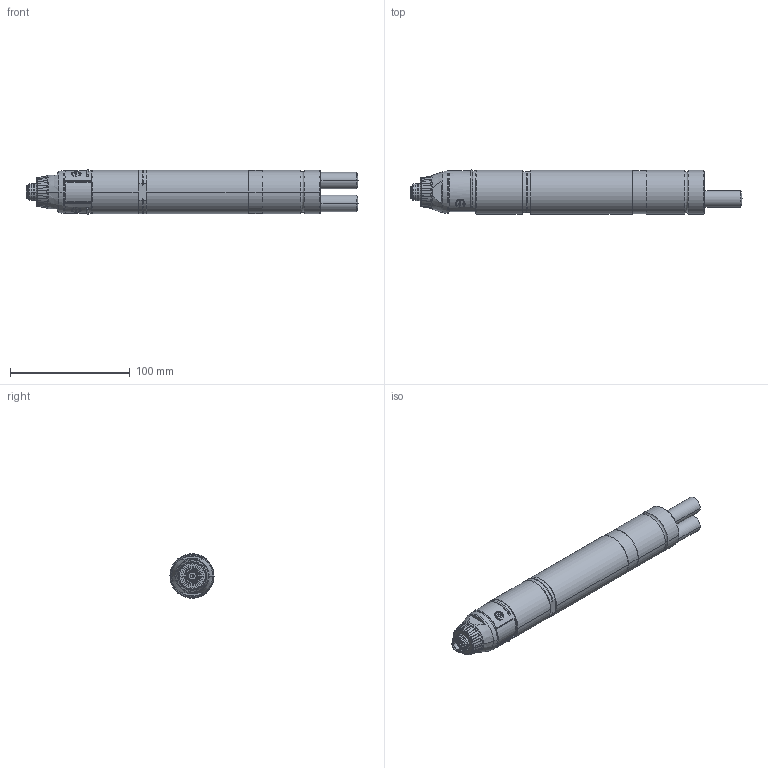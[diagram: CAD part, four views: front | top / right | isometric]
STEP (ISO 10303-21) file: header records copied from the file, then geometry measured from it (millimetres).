
FILE_DESCRIPTION((''),'2;1');
FILE_NAME('1464194_ASM','2008-02-04T',('stag1rdm'),(''),'PRO/ENGINEER BY PARAMETRIC TECHNOLOGY CORPORATION, 2007090','PRO/ENGINEER BY PARAMETRIC TECHNOLOGY CORPORATION, 2007090','');
FILE_SCHEMA(('AUTOMOTIVE_DESIGN_CC2 { 1 2 10303 214 -1 1 5 2 }'));
Length unit declared in the file: millimetre
Products named in the file (14): 465823; 465893; 2050465863; 2050465903; 465491_ASM; 2050466013; 466883; 2050475693; 2050457923; 475651_ASM; 2050465623A; 2050443613; 465511_ASM; 1464194_ASM
Assembly tree (14 placements, depth 3):
  1464194_ASM
    465491_ASM
      465823
      465893
      2050465863
      2050465903
    2050466013
    466883
    475651_ASM
      2050475693
      2050457923  x2
    465511_ASM
      2050465623A
      2050443613
Bounding box: 277.8 x 36.92 x 37.33 mm (x, y, z)
Volume: 104763.9 mm3; surface area: 84430.4 mm2
Topology: 11 solids, 22 shells, 734 faces, 1727 edges, 1069 vertices
Faces by surface type: cylinder 258, plane 210, cone 114, torus 108, sphere 30, bspline 14
Entity records: 25935 total; most frequent: CARTESIAN_POINT 5080, DIRECTION 3983, ORIENTED_EDGE 3322, EDGE_CURVE 1681, AXIS2_PLACEMENT_3D 1677, PRESENTATION_STYLE_ASSIGNMENT 1141, STYLED_ITEM 1141, CURVE_STYLE 1123
